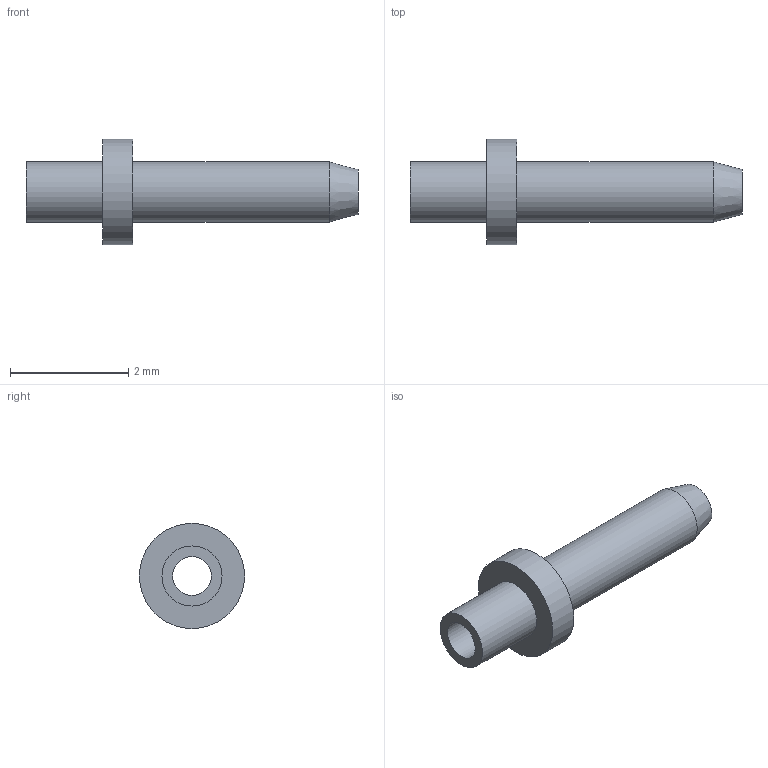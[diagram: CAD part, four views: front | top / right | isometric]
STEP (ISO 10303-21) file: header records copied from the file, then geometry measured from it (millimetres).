
FILE_DESCRIPTION(/* description */ (''),/* implementation_level */ '2;1');
FILE_NAME(/* name */ 'Z:\STEP folder\460323301.ipt.stp',/* time_stamp */ '2016-12-21T13:06:01+00:00',/* author */ ('Paul Karlsons'),/* organization */ (''),/* preprocessor_version */ 'ST-DEVELOPER v15.2',/* originating_system */ 'Autodesk Inventor 2014',/* authorisation */ '');
FILE_SCHEMA (('AUTOMOTIVE_DESIGN { 1 0 10303 214 3 1 1 }'));
Length unit declared in the file: millimetre
Products named in the file (1): 460323301
Bounding box: 5.61 x 1.78 x 1.78 mm (x, y, z)
Volume: 3.4 mm3; surface area: 34.5 mm2
Topology: 1 solids, 1 shells, 9 faces, 15 edges, 10 vertices
Faces by surface type: cylinder 4, plane 4, cone 1
Full cylindrical faces by diameter (mm): 0.66 x1, 1.016 x2, 1.778 x1
Entity records: 209 total; most frequent: DIRECTION 38, CARTESIAN_POINT 28, AXIS2_PLACEMENT_3D 19, EDGE_LOOP 18, ORIENTED_EDGE 18, FACE_BOUND 12, CIRCLE 9, VERTEX_POINT 9
